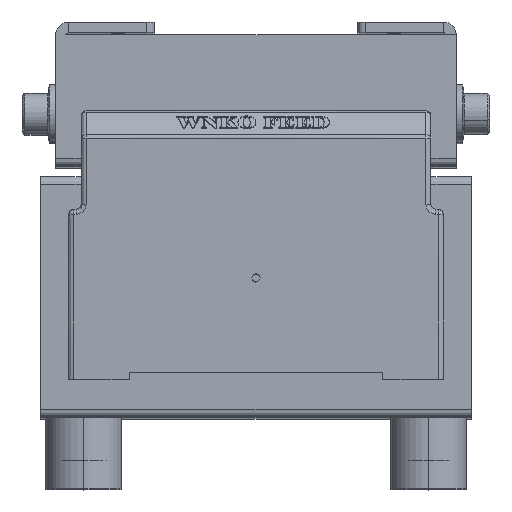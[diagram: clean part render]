
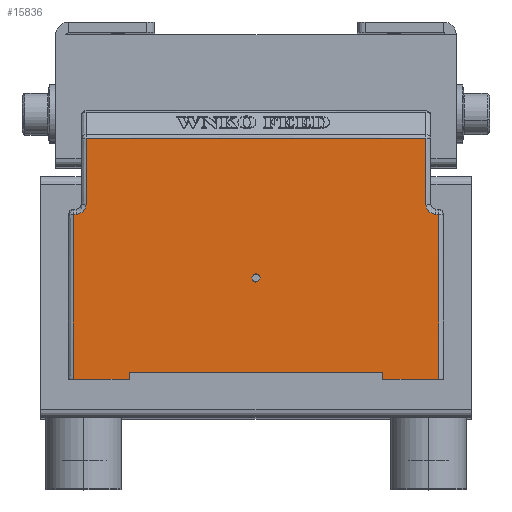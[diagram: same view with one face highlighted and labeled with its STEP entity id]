
A CAD part, top view. The second image highlights one B-rep face of the part: STEP entity #15836.
In plain terms, the highlighted free-form (B-spline) face has degree [1, 1] with [2, 2] control points.
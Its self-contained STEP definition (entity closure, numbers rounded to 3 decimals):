
#15636=CARTESIAN_POINT('',(25.,15.,8.797));
#15637=VERTEX_POINT('',#15636);
#15638=CARTESIAN_POINT('',(3.,15.,8.797));
#15639=VERTEX_POINT('',#15638);
#15640=CARTESIAN_POINT('',(25.,15.,8.797));
#15641=CARTESIAN_POINT('',(3.,15.,8.797));
#15642=B_SPLINE_CURVE_WITH_KNOTS('',1,(#15640,#15641),.POLYLINE_FORM.,.F.,.U.,(2,2),(0.,1.),.UNSPECIFIED.);
#15643=EDGE_CURVE('',#15637,#15639,#15642,.T.);
#15684=CARTESIAN_POINT('',(147.,15.,8.797));
#15685=VERTEX_POINT('',#15684);
#15694=CARTESIAN_POINT('',(125.,15.,8.797));
#15695=VERTEX_POINT('',#15694);
#15696=CARTESIAN_POINT('',(147.,15.,8.797));
#15697=CARTESIAN_POINT('',(125.,15.,8.797));
#15698=B_SPLINE_CURVE_WITH_KNOTS('',1,(#15696,#15697),.POLYLINE_FORM.,.F.,.U.,(2,2),(0.,1.),.UNSPECIFIED.);
#15699=EDGE_CURVE('',#15685,#15695,#15698,.T.);
#15723=CARTESIAN_POINT('',(409.588,275.588,8.797));
#15724=CARTESIAN_POINT('',(409.588,-245.588,8.797));
#15725=CARTESIAN_POINT('',(-111.588,275.588,8.797));
#15726=CARTESIAN_POINT('',(-111.588,-245.588,8.797));
#15727=B_SPLINE_SURFACE_WITH_KNOTS('',1,1,((#15723,#15724),(#15725,#15726)),.PLANE_SURF.,.F.,.F.,.U.,(2,2),(2,2),(0.,1.),(0.,1.),.UNSPECIFIED.);
#15728=CARTESIAN_POINT('',(4.,80.,8.797));
#15729=VERTEX_POINT('',#15728);
#15730=CARTESIAN_POINT('',(3.,80.,8.797));
#15731=VERTEX_POINT('',#15730);
#15732=CARTESIAN_POINT('',(4.,80.,8.797));
#15733=CARTESIAN_POINT('',(3.,80.,8.797));
#15734=B_SPLINE_CURVE_WITH_KNOTS('',1,(#15732,#15733),.POLYLINE_FORM.,.F.,.U.,(2,2),(0.,1.),.UNSPECIFIED.);
#15735=EDGE_CURVE('',#15729,#15731,#15734,.T.);
#15736=ORIENTED_EDGE('',*,*,#15735,.T.);
#15737=CARTESIAN_POINT('',(3.,80.,8.797));
#15738=CARTESIAN_POINT('',(3.,15.,8.797));
#15739=B_SPLINE_CURVE_WITH_KNOTS('',1,(#15737,#15738),.POLYLINE_FORM.,.F.,.U.,(2,2),(0.,1.),.UNSPECIFIED.);
#15740=EDGE_CURVE('',#15731,#15639,#15739,.T.);
#15741=ORIENTED_EDGE('',*,*,#15740,.T.);
#15742=ORIENTED_EDGE('',*,*,#15643,.F.);
#15743=CARTESIAN_POINT('',(25.,17.5,8.797));
#15744=VERTEX_POINT('',#15743);
#15745=CARTESIAN_POINT('',(25.,15.,8.797));
#15746=CARTESIAN_POINT('',(25.,17.5,8.797));
#15747=B_SPLINE_CURVE_WITH_KNOTS('',1,(#15745,#15746),.POLYLINE_FORM.,.F.,.U.,(2,2),(0.,1.),.UNSPECIFIED.);
#15748=EDGE_CURVE('',#15637,#15744,#15747,.T.);
#15749=ORIENTED_EDGE('',*,*,#15748,.T.);
#15750=CARTESIAN_POINT('',(125.,17.5,8.797));
#15751=VERTEX_POINT('',#15750);
#15752=CARTESIAN_POINT('',(25.,17.5,8.797));
#15753=CARTESIAN_POINT('',(125.,17.5,8.797));
#15754=B_SPLINE_CURVE_WITH_KNOTS('',1,(#15752,#15753),.POLYLINE_FORM.,.F.,.U.,(2,2),(0.,1.),.UNSPECIFIED.);
#15755=EDGE_CURVE('',#15744,#15751,#15754,.T.);
#15756=ORIENTED_EDGE('',*,*,#15755,.T.);
#15757=CARTESIAN_POINT('',(125.,17.5,8.797));
#15758=CARTESIAN_POINT('',(125.,15.,8.797));
#15759=B_SPLINE_CURVE_WITH_KNOTS('',1,(#15757,#15758),.POLYLINE_FORM.,.F.,.U.,(2,2),(0.,1.),.UNSPECIFIED.);
#15760=EDGE_CURVE('',#15751,#15695,#15759,.T.);
#15761=ORIENTED_EDGE('',*,*,#15760,.T.);
#15762=ORIENTED_EDGE('',*,*,#15699,.F.);
#15763=CARTESIAN_POINT('',(147.,80.,8.797));
#15764=VERTEX_POINT('',#15763);
#15765=CARTESIAN_POINT('',(147.,15.,8.797));
#15766=CARTESIAN_POINT('',(147.,80.,8.797));
#15767=B_SPLINE_CURVE_WITH_KNOTS('',1,(#15765,#15766),.POLYLINE_FORM.,.F.,.U.,(2,2),(0.,1.),.UNSPECIFIED.);
#15768=EDGE_CURVE('',#15685,#15764,#15767,.T.);
#15769=ORIENTED_EDGE('',*,*,#15768,.T.);
#15770=CARTESIAN_POINT('',(146.,80.,8.797));
#15771=VERTEX_POINT('',#15770);
#15772=CARTESIAN_POINT('',(147.,80.,8.797));
#15773=CARTESIAN_POINT('',(146.,80.,8.797));
#15774=B_SPLINE_CURVE_WITH_KNOTS('',1,(#15772,#15773),.POLYLINE_FORM.,.F.,.U.,(2,2),(0.,1.),.UNSPECIFIED.);
#15775=EDGE_CURVE('',#15764,#15771,#15774,.T.);
#15776=ORIENTED_EDGE('',*,*,#15775,.T.);
#15777=CARTESIAN_POINT('',(142.,84.,8.797));
#15778=VERTEX_POINT('',#15777);
#15779=CARTESIAN_POINT('',(146.,80.,8.797));
#15780=CARTESIAN_POINT('',(142.,80.,8.797));
#15781=CARTESIAN_POINT('',(142.,84.,8.797));
#15782=(BOUNDED_CURVE()B_SPLINE_CURVE(2,(#15779,#15780,#15781),.CIRCULAR_ARC.,.F.,.U.)B_SPLINE_CURVE_WITH_KNOTS((3,3),(0.,1.),.UNSPECIFIED.)CURVE()GEOMETRIC_REPRESENTATION_ITEM()RATIONAL_B_SPLINE_CURVE((1.,0.707,1.))REPRESENTATION_ITEM(''));
#15783=EDGE_CURVE('',#15771,#15778,#15782,.T.);
#15784=ORIENTED_EDGE('',*,*,#15783,.T.);
#15785=CARTESIAN_POINT('',(142.,110.172,8.797));
#15786=VERTEX_POINT('',#15785);
#15787=CARTESIAN_POINT('',(142.,84.,8.797));
#15788=CARTESIAN_POINT('',(142.,110.172,8.797));
#15789=B_SPLINE_CURVE_WITH_KNOTS('',1,(#15787,#15788),.POLYLINE_FORM.,.F.,.U.,(2,2),(0.,1.),.UNSPECIFIED.);
#15790=EDGE_CURVE('',#15778,#15786,#15789,.T.);
#15791=ORIENTED_EDGE('',*,*,#15790,.T.);
#15792=CARTESIAN_POINT('',(8.,110.172,8.797));
#15793=VERTEX_POINT('',#15792);
#15794=CARTESIAN_POINT('',(142.,110.172,8.797));
#15795=CARTESIAN_POINT('',(8.,110.172,8.797));
#15796=B_SPLINE_CURVE_WITH_KNOTS('',1,(#15794,#15795),.POLYLINE_FORM.,.F.,.U.,(2,2),(0.,1.),.UNSPECIFIED.);
#15797=EDGE_CURVE('',#15786,#15793,#15796,.T.);
#15798=ORIENTED_EDGE('',*,*,#15797,.T.);
#15799=CARTESIAN_POINT('',(8.,84.,8.797));
#15800=VERTEX_POINT('',#15799);
#15801=CARTESIAN_POINT('',(8.,110.172,8.797));
#15802=CARTESIAN_POINT('',(8.,84.,8.797));
#15803=B_SPLINE_CURVE_WITH_KNOTS('',1,(#15801,#15802),.POLYLINE_FORM.,.F.,.U.,(2,2),(0.,1.),.UNSPECIFIED.);
#15804=EDGE_CURVE('',#15793,#15800,#15803,.T.);
#15805=ORIENTED_EDGE('',*,*,#15804,.T.);
#15806=CARTESIAN_POINT('',(8.,84.,8.797));
#15807=CARTESIAN_POINT('',(8.,80.,8.797));
#15808=CARTESIAN_POINT('',(4.,80.,8.797));
#15809=(BOUNDED_CURVE()B_SPLINE_CURVE(2,(#15806,#15807,#15808),.CIRCULAR_ARC.,.F.,.U.)B_SPLINE_CURVE_WITH_KNOTS((3,3),(0.,1.),.UNSPECIFIED.)CURVE()GEOMETRIC_REPRESENTATION_ITEM()RATIONAL_B_SPLINE_CURVE((1.,0.707,1.))REPRESENTATION_ITEM(''));
#15810=EDGE_CURVE('',#15800,#15729,#15809,.T.);
#15811=ORIENTED_EDGE('',*,*,#15810,.T.);
#15812=EDGE_LOOP('',(#15736,#15741,#15742,#15749,#15756,#15761,#15762,#15769,#15776,#15784,#15791,#15798,#15805,#15811));
#15813=FACE_OUTER_BOUND('',#15812,.T.);
#15814=CARTESIAN_POINT('',(73.35,55.,8.797));
#15815=VERTEX_POINT('',#15814);
#15816=CARTESIAN_POINT('',(76.65,55.,8.797));
#15817=VERTEX_POINT('',#15816);
#15818=CARTESIAN_POINT('',(73.35,55.,8.797));
#15819=CARTESIAN_POINT('',(73.35,56.65,8.797));
#15820=CARTESIAN_POINT('',(75.,56.65,8.797));
#15821=CARTESIAN_POINT('',(76.65,56.65,8.797));
#15822=CARTESIAN_POINT('',(76.65,55.,8.797));
#15823=(BOUNDED_CURVE()B_SPLINE_CURVE(2,(#15818,#15819,#15820,#15821,#15822),.CIRCULAR_ARC.,.F.,.U.)B_SPLINE_CURVE_WITH_KNOTS((3,2,3),(0.,0.5,1.),.UNSPECIFIED.)CURVE()GEOMETRIC_REPRESENTATION_ITEM()RATIONAL_B_SPLINE_CURVE((1.,0.707,1.,0.707,1.))REPRESENTATION_ITEM(''));
#15824=EDGE_CURVE('',#15815,#15817,#15823,.T.);
#15825=ORIENTED_EDGE('',*,*,#15824,.T.);
#15826=CARTESIAN_POINT('',(76.65,55.,8.797));
#15827=CARTESIAN_POINT('',(76.65,53.35,8.797));
#15828=CARTESIAN_POINT('',(75.,53.35,8.797));
#15829=CARTESIAN_POINT('',(73.35,53.35,8.797));
#15830=CARTESIAN_POINT('',(73.35,55.,8.797));
#15831=(BOUNDED_CURVE()B_SPLINE_CURVE(2,(#15826,#15827,#15828,#15829,#15830),.CIRCULAR_ARC.,.F.,.U.)B_SPLINE_CURVE_WITH_KNOTS((3,2,3),(0.,0.5,1.),.UNSPECIFIED.)CURVE()GEOMETRIC_REPRESENTATION_ITEM()RATIONAL_B_SPLINE_CURVE((1.,0.707,1.,0.707,1.))REPRESENTATION_ITEM(''));
#15832=EDGE_CURVE('',#15817,#15815,#15831,.T.);
#15833=ORIENTED_EDGE('',*,*,#15832,.T.);
#15834=EDGE_LOOP('',(#15825,#15833));
#15835=FACE_BOUND('',#15834,.T.);
#15836=ADVANCED_FACE('',(#15813,#15835),#15727,.T.);
